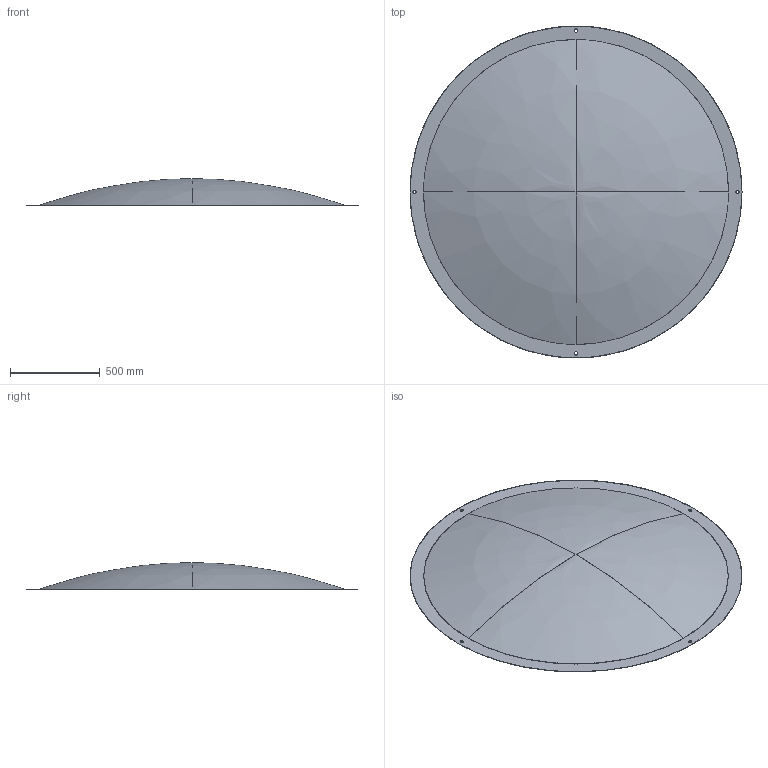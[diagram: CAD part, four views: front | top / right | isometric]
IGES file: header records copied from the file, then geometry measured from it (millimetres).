
Start section: C
Global section: file name: window.igs; native system:  By UGS Corp.; preprocessor: XPlus GENERIC/IGES 3.0; author: Author; organization: Title; date: 20110219.165911; units: millimetre
Bounding box: 1852.4 x 1850.04 x 147.92 mm (x, y, z)
Surface area: 5529465.4 mm2 (no closed solid volume)
Topology: 0 solids, 0 shells, 20 faces, 100 edges, 92 vertices
Faces by surface type: bspline 20
